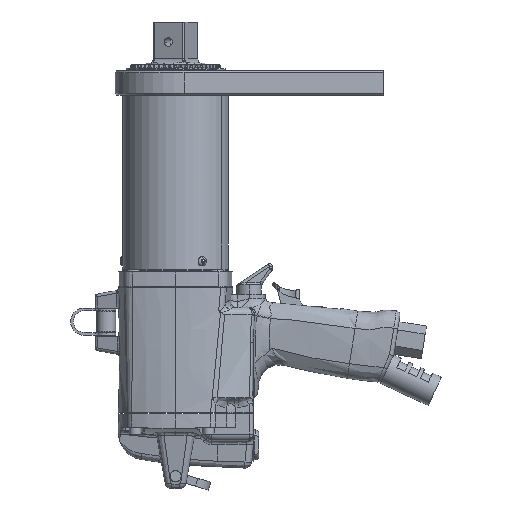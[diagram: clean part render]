
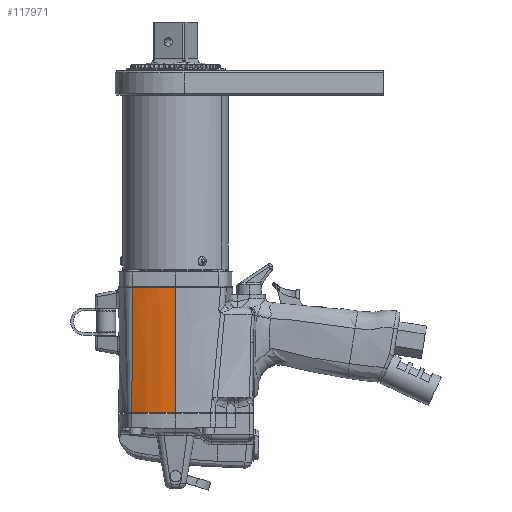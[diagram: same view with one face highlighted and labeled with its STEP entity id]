
A CAD part, left-side view. The second image highlights one B-rep face of the part: STEP entity #117971.
In plain terms, the highlighted free-form (B-spline) face has degree [3, 3] with [4, 9] control points.
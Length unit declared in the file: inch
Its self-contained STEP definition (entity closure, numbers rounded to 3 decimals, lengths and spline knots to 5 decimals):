
#3728 = CARTESIAN_POINT ( 'NONE',  ( -1.65354, 0., -4.37445 ) ) ;
#4165 = CARTESIAN_POINT ( 'NONE',  ( -1.65354, 0.43167, -6.63288 ) ) ;
#4598 = CARTESIAN_POINT ( 'NONE',  ( -1.48814, 1.23915, -4.17323 ) ) ;
#10413 = EDGE_LOOP ( 'NONE', ( #63444, #16360, #99717, #49341 ) ) ;
#12527 = EDGE_CURVE ( 'NONE', #32122, #88073, #22438, .T. ) ;
#12933 = CARTESIAN_POINT ( 'NONE',  ( -1.48814, 1.23915, -4.17323 ) ) ;
#13921 = CARTESIAN_POINT ( 'NONE',  ( -1.65354, 0., -5.38058 ) ) ;
#14358 = CARTESIAN_POINT ( 'NONE',  ( -1.65354, 0.43679, -7.64323 ) ) ;
#14797 = CARTESIAN_POINT ( 'NONE',  ( -1.4714, 1.2437, -4.7769 ) ) ;
#14831 =( BOUNDED_CURVE ( )  B_SPLINE_CURVE ( 3, ( #26656, #26129, #25827, #25806 ),
 .UNSPECIFIED., .F., .T. ) 
 B_SPLINE_CURVE_WITH_KNOTS ( ( 4, 4 ),
 ( 0., 1. ),
 .UNSPECIFIED. ) 
 CURVE ( )  GEOMETRIC_REPRESENTATION_ITEM ( )  RATIONAL_B_SPLINE_CURVE ( ( 1., 0.994, 0.994, 1. ) ) 
 REPRESENTATION_ITEM ( '' )  );
#16360 = ORIENTED_EDGE ( 'NONE', *, *, #101331, .F. ) ;
#19204 = VERTEX_POINT ( 'NONE', #12933 ) ;
#22438 =( BOUNDED_CURVE ( )  B_SPLINE_CURVE ( 3, ( #104989, #104858, #104836, #104672 ),
 .UNSPECIFIED., .F., .F. ) 
 B_SPLINE_CURVE_WITH_KNOTS ( ( 4, 4 ),
 ( 0., 1. ),
 .UNSPECIFIED. ) 
 CURVE ( )  GEOMETRIC_REPRESENTATION_ITEM ( )  RATIONAL_B_SPLINE_CURVE ( ( 1., 0.986, 0.986, 1. ) ) 
 REPRESENTATION_ITEM ( '' )  );
#23350 = EDGE_CURVE ( 'NONE', #19204, #32122, #27996, .T. ) ;
#24019 = CARTESIAN_POINT ( 'NONE',  ( -1.65354, 0., -6.63823 ) ) ;
#24435 = CARTESIAN_POINT ( 'NONE',  ( -1.59808, 0.83466, -4.17323 ) ) ;
#24571 = B_SPLINE_CURVE_WITH_KNOTS ( 'NONE', 3,
 ( #127772, #77302, #57987, #128599 ),
 .UNSPECIFIED., .F., .F.,
 ( 4, 4 ),
 ( 0., 1. ),
 .UNSPECIFIED. ) ;
#24871 = CARTESIAN_POINT ( 'NONE',  ( -1.43793, 1.25278, -5.98425 ) ) ;
#25806 = CARTESIAN_POINT ( 'NONE',  ( -1.48814, 1.23915, -4.17323 ) ) ;
#25827 = CARTESIAN_POINT ( 'NONE',  ( -1.59808, 0.83466, -4.17323 ) ) ;
#26129 = CARTESIAN_POINT ( 'NONE',  ( -1.65354, 0.41917, -4.17323 ) ) ;
#26656 = CARTESIAN_POINT ( 'NONE',  ( -1.65354, 0., -4.17323 ) ) ;
#27996 = B_SPLINE_CURVE_WITH_KNOTS ( 'NONE', 3,
 ( #127612, #127716, #127174, #127049 ),
 .UNSPECIFIED., .F., .F.,
 ( 4, 4 ),
 ( 0., 1. ),
 .UNSPECIFIED. ) ;
#32122 = VERTEX_POINT ( 'NONE', #84475 ) ;
#34070 = CARTESIAN_POINT ( 'NONE',  ( -1.65354, 0., -7.64436 ) ) ;
#34509 = CARTESIAN_POINT ( 'NONE',  ( -1.58982, 0.84343, -4.72508 ) ) ;
#34949 = CARTESIAN_POINT ( 'NONE',  ( -1.40306, 1.26225, -7.24191 ) ) ;
#41911 = FACE_OUTER_BOUND ( 'NONE', #10413, .T. ) ;
#44177 = CARTESIAN_POINT ( 'NONE',  ( -1.65354, 0.41917, -4.17323 ) ) ;
#44611 = CARTESIAN_POINT ( 'NONE',  ( -1.57497, 0.85582, -5.89593 ) ) ;
#45049 = CARTESIAN_POINT ( 'NONE',  ( -1.38772, 1.26642, -7.79528 ) ) ;
#45546 =( BOUNDED_SURFACE ( )  B_SPLINE_SURFACE ( 3, 3, ( 
 ( #113879, #3728, #74017, #13921, #84150, #24019, #94311, #34070, #104505 ),
 ( #44177, #114751, #54245, #124945, #64362, #4165, #74438, #14358, #84596 ),
 ( #24435, #94733, #34509, #104939, #44611, #115192, #54695, #125378, #64790 ),
 ( #4598, #74872, #14797, #85047, #24871, #95164, #34949, #105390, #45049 ) ),
 .UNSPECIFIED., .F., .F., .F. ) 
 B_SPLINE_SURFACE_WITH_KNOTS ( ( 4, 4 ),
 ( 4, 1, 1, 1, 1, 1, 4 ),
 ( 0.14286, 0.28571 ),
 ( 0., 0.16667, 0.33333, 0.5, 0.66667, 0.875, 1. ),
 .UNSPECIFIED. ) 
 GEOMETRIC_REPRESENTATION_ITEM ( )  RATIONAL_B_SPLINE_SURFACE ( (
 ( 1., 1., 1., 1., 1., 1., 1., 1., 1.),
 ( 0.994, 0.994, 0.993, 0.991, 0.99, 0.989, 0.986, 0.986, 0.986),
 ( 0.994, 0.994, 0.993, 0.991, 0.99, 0.989, 0.986, 0.986, 0.986),
 ( 1., 1., 1., 1., 1., 1., 1., 1., 1.) ) ) 
 REPRESENTATION_ITEM ( '' )  SURFACE ( )  );
#46187 = EDGE_CURVE ( 'NONE', #81544, #19204, #14831, .T. ) ;
#49341 = ORIENTED_EDGE ( 'NONE', *, *, #23350, .T. ) ;
#54245 = CARTESIAN_POINT ( 'NONE',  ( -1.65354, 0.42223, -4.77335 ) ) ;
#54695 = CARTESIAN_POINT ( 'NONE',  ( -1.56318, 0.86822, -7.16334 ) ) ;
#57987 = CARTESIAN_POINT ( 'NONE',  ( -1.65354, 0., -6.58793 ) ) ;
#63444 = ORIENTED_EDGE ( 'NONE', *, *, #12527, .T. ) ;
#64362 = CARTESIAN_POINT ( 'NONE',  ( -1.65354, 0.42835, -5.97865 ) ) ;
#64790 = CARTESIAN_POINT ( 'NONE',  ( -1.56366, 0.86579, -7.79528 ) ) ;
#69227 = CARTESIAN_POINT ( 'NONE',  ( -1.65354, 0., -4.17323 ) ) ;
#74017 = CARTESIAN_POINT ( 'NONE',  ( -1.65354, 0., -4.7769 ) ) ;
#74438 = CARTESIAN_POINT ( 'NONE',  ( -1.65354, 0.43474, -7.23812 ) ) ;
#74872 = CARTESIAN_POINT ( 'NONE',  ( -1.48256, 1.24067, -4.37445 ) ) ;
#77302 = CARTESIAN_POINT ( 'NONE',  ( -1.65354, 0., -5.38058 ) ) ;
#81544 = VERTEX_POINT ( 'NONE', #69227 ) ;
#84150 = CARTESIAN_POINT ( 'NONE',  ( -1.65354, 0., -5.98425 ) ) ;
#84475 = CARTESIAN_POINT ( 'NONE',  ( -1.38772, 1.26642, -7.79528 ) ) ;
#84596 = CARTESIAN_POINT ( 'NONE',  ( -1.65354, 0.43756, -7.79528 ) ) ;
#85047 = CARTESIAN_POINT ( 'NONE',  ( -1.45467, 1.24824, -5.38058 ) ) ;
#88073 = VERTEX_POINT ( 'NONE', #103519 ) ;
#94311 = CARTESIAN_POINT ( 'NONE',  ( -1.65354, 0., -7.24191 ) ) ;
#94733 = CARTESIAN_POINT ( 'NONE',  ( -1.59533, 0.83758, -4.35702 ) ) ;
#95164 = CARTESIAN_POINT ( 'NONE',  ( -1.4198, 1.25771, -6.63823 ) ) ;
#99717 = ORIENTED_EDGE ( 'NONE', *, *, #46187, .T. ) ;
#101331 = EDGE_CURVE ( 'NONE', #81544, #88073, #24571, .T. ) ;
#103519 = CARTESIAN_POINT ( 'NONE',  ( -1.65354, 0., -7.79528 ) ) ;
#104505 = CARTESIAN_POINT ( 'NONE',  ( -1.65354, 0., -7.79528 ) ) ;
#104672 = CARTESIAN_POINT ( 'NONE',  ( -1.65354, 0., -7.79528 ) ) ;
#104836 = CARTESIAN_POINT ( 'NONE',  ( -1.65354, 0.43756, -7.79528 ) ) ;
#104858 = CARTESIAN_POINT ( 'NONE',  ( -1.56366, 0.86579, -7.79528 ) ) ;
#104939 = CARTESIAN_POINT ( 'NONE',  ( -1.58186, 0.85076, -5.30409 ) ) ;
#104989 = CARTESIAN_POINT ( 'NONE',  ( -1.38772, 1.26642, -7.79528 ) ) ;
#105390 = CARTESIAN_POINT ( 'NONE',  ( -1.3919, 1.26528, -7.64436 ) ) ;
#113879 = CARTESIAN_POINT ( 'NONE',  ( -1.65354, 0., -4.17323 ) ) ;
#114751 = CARTESIAN_POINT ( 'NONE',  ( -1.65354, 0.42019, -4.3731 ) ) ;
#115192 = CARTESIAN_POINT ( 'NONE',  ( -1.56754, 0.86491, -6.54205 ) ) ;
#117971 = ADVANCED_FACE ( 'NONE', ( #41911 ), #45546, .T. ) ;
#124945 = CARTESIAN_POINT ( 'NONE',  ( -1.65354, 0.42529, -5.37537 ) ) ;
#125378 = CARTESIAN_POINT ( 'NONE',  ( -1.56353, 0.86645, -7.62282 ) ) ;
#127049 = CARTESIAN_POINT ( 'NONE',  ( -1.38772, 1.26642, -7.79528 ) ) ;
#127174 = CARTESIAN_POINT ( 'NONE',  ( -1.42119, 1.25733, -6.58793 ) ) ;
#127612 = CARTESIAN_POINT ( 'NONE',  ( -1.48814, 1.23915, -4.17323 ) ) ;
#127716 = CARTESIAN_POINT ( 'NONE',  ( -1.45467, 1.24824, -5.38058 ) ) ;
#127772 = CARTESIAN_POINT ( 'NONE',  ( -1.65354, 0., -4.17323 ) ) ;
#128599 = CARTESIAN_POINT ( 'NONE',  ( -1.65354, 0., -7.79528 ) ) ;
